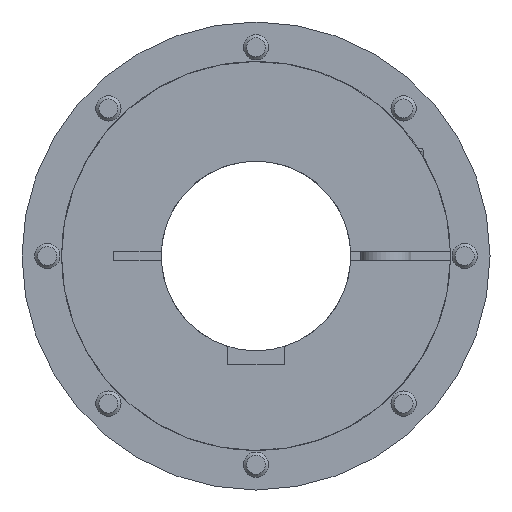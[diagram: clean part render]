
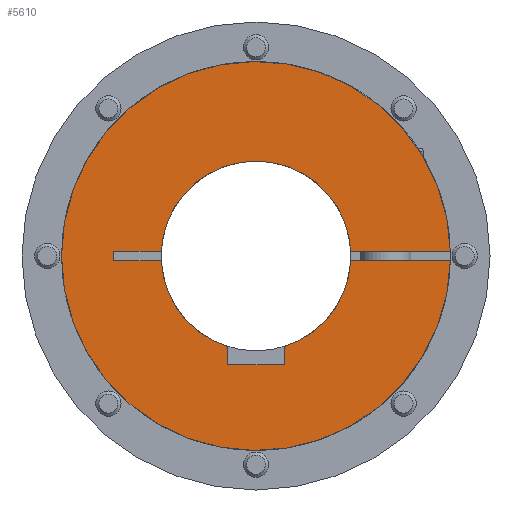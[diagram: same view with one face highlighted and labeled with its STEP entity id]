
A CAD part, left-side view. The second image highlights one B-rep face of the part: STEP entity #5610.
In plain terms, the highlighted planar face has unit normal (-1, 0, 0).
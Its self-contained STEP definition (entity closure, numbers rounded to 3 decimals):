
#164=PLANE('',#6139);
#358=LINE('',#17048,#802);
#361=LINE('',#17054,#805);
#362=LINE('',#17056,#806);
#368=LINE('',#17073,#812);
#372=LINE('',#17080,#816);
#425=LINE('',#17869,#869);
#426=LINE('',#17871,#870);
#427=LINE('',#17872,#871);
#802=VECTOR('',#6674,1.);
#805=VECTOR('',#6679,1.);
#806=VECTOR('',#6682,1.);
#812=VECTOR('',#6696,1000.);
#816=VECTOR('',#6702,1000.);
#869=VECTOR('',#7171,1000.);
#870=VECTOR('',#7174,1000.);
#871=VECTOR('',#7175,1000.);
#1370=FACE_OUTER_BOUND('',#1712,.T.);
#1712=EDGE_LOOP('',(#4326,#4327,#4328,#4329,#4330,#4331,#4332,#4333,#4334,
#4335,#4336,#4337));
#2034=CIRCLE('',#5896,30.);
#2036=CIRCLE('',#5898,30.);
#2142=CIRCLE('',#6041,61.5);
#2195=CIRCLE('',#6136,30.);
#2441=VERTEX_POINT('',#16983);
#2442=VERTEX_POINT('',#16985);
#2445=VERTEX_POINT('',#16991);
#2446=VERTEX_POINT('',#16993);
#2470=VERTEX_POINT('',#17046);
#2472=VERTEX_POINT('',#17052);
#2478=VERTEX_POINT('',#17070);
#2479=VERTEX_POINT('',#17072);
#2481=VERTEX_POINT('',#17078);
#2552=VERTEX_POINT('',#17278);
#2553=VERTEX_POINT('',#17280);
#2623=VERTEX_POINT('',#17864);
#3051=EDGE_CURVE('',#2442,#2441,#2034,.T.);
#3055=EDGE_CURVE('',#2446,#2445,#2036,.T.);
#3082=EDGE_CURVE('',#2445,#2470,#358,.T.);
#3085=EDGE_CURVE('',#2470,#2472,#361,.T.);
#3086=EDGE_CURVE('',#2472,#2442,#362,.T.);
#3094=EDGE_CURVE('',#2479,#2478,#368,.T.);
#3098=EDGE_CURVE('',#2441,#2481,#372,.T.);
#3198=EDGE_CURVE('',#2552,#2553,#2142,.T.);
#3291=EDGE_CURVE('',#2478,#2623,#2195,.T.);
#3293=EDGE_CURVE('',#2623,#2553,#425,.T.);
#3294=EDGE_CURVE('',#2479,#2481,#426,.T.);
#3295=EDGE_CURVE('',#2552,#2446,#427,.T.);
#4326=ORIENTED_EDGE('',*,*,#3086,.T.);
#4327=ORIENTED_EDGE('',*,*,#3051,.T.);
#4328=ORIENTED_EDGE('',*,*,#3098,.T.);
#4329=ORIENTED_EDGE('',*,*,#3294,.F.);
#4330=ORIENTED_EDGE('',*,*,#3094,.T.);
#4331=ORIENTED_EDGE('',*,*,#3291,.T.);
#4332=ORIENTED_EDGE('',*,*,#3293,.T.);
#4333=ORIENTED_EDGE('',*,*,#3198,.F.);
#4334=ORIENTED_EDGE('',*,*,#3295,.T.);
#4335=ORIENTED_EDGE('',*,*,#3055,.T.);
#4336=ORIENTED_EDGE('',*,*,#3082,.T.);
#4337=ORIENTED_EDGE('',*,*,#3085,.T.);
#5610=ADVANCED_FACE('',(#1370),#164,.T.);
#5896=AXIS2_PLACEMENT_3D('',#16986,#6612,#6613);
#5898=AXIS2_PLACEMENT_3D('',#16994,#6618,#6619);
#6041=AXIS2_PLACEMENT_3D('',#17281,#6941,#6942);
#6136=AXIS2_PLACEMENT_3D('',#17865,#7164,#7165);
#6139=AXIS2_PLACEMENT_3D('',#17870,#7172,#7173);
#6612=DIRECTION('center_axis',(1.,0.,0.));
#6613=DIRECTION('ref_axis',(0.,1.,0.));
#6618=DIRECTION('center_axis',(1.,0.,0.));
#6619=DIRECTION('ref_axis',(0.,1.,0.));
#6674=DIRECTION('',(0.,0.,-1.));
#6679=DIRECTION('',(0.,1.,0.));
#6682=DIRECTION('',(0.,0.,1.));
#6696=DIRECTION('',(0.,-1.,0.));
#6702=DIRECTION('',(0.,1.,0.));
#6941=DIRECTION('center_axis',(1.,0.,0.));
#6942=DIRECTION('ref_axis',(0.,1.,0.));
#7164=DIRECTION('center_axis',(1.,0.,0.));
#7165=DIRECTION('ref_axis',(0.,1.,0.));
#7171=DIRECTION('',(0.,-1.,0.));
#7172=DIRECTION('center_axis',(-1.,0.,0.));
#7173=DIRECTION('ref_axis',(0.,1.,0.));
#7174=DIRECTION('',(0.,0.,-1.));
#7175=DIRECTION('',(0.,1.,0.));
#16983=CARTESIAN_POINT('',(0.,29.962,-1.5));
#16985=CARTESIAN_POINT('',(0.,9.,-28.618));
#16986=CARTESIAN_POINT('Origin',(0.,0.,
0.));
#16991=CARTESIAN_POINT('',(0.,-9.,-28.618));
#16993=CARTESIAN_POINT('',(0.,-29.962,-1.5));
#16994=CARTESIAN_POINT('Origin',(0.,0.,
0.));
#17046=CARTESIAN_POINT('',(0.,-9.,-34.4));
#17048=CARTESIAN_POINT('',(0.,-9.,-17.35));
#17052=CARTESIAN_POINT('',(0.,9.,-34.4));
#17054=CARTESIAN_POINT('',(0.,0.,-34.4));
#17056=CARTESIAN_POINT('',(0.,9.,-17.35));
#17070=CARTESIAN_POINT('',(0.,29.962,1.5));
#17072=CARTESIAN_POINT('',(0.,45.,1.5));
#17073=CARTESIAN_POINT('',(0.,0.,
1.5));
#17078=CARTESIAN_POINT('',(0.,45.,-1.5));
#17080=CARTESIAN_POINT('',(0.,45.,-1.5));
#17278=CARTESIAN_POINT('',(0.,-61.482,-1.5));
#17280=CARTESIAN_POINT('',(0.,-61.482,1.5));
#17281=CARTESIAN_POINT('Origin',(0.,0.,
0.));
#17864=CARTESIAN_POINT('',(0.,-29.962,1.5));
#17865=CARTESIAN_POINT('Origin',(0.,0.,
0.));
#17869=CARTESIAN_POINT('',(0.,0.,
1.5));
#17870=CARTESIAN_POINT('Origin',(0.,0.,
-17.5));
#17871=CARTESIAN_POINT('',(0.,45.,61.5));
#17872=CARTESIAN_POINT('',(0.,45.,-1.5));
